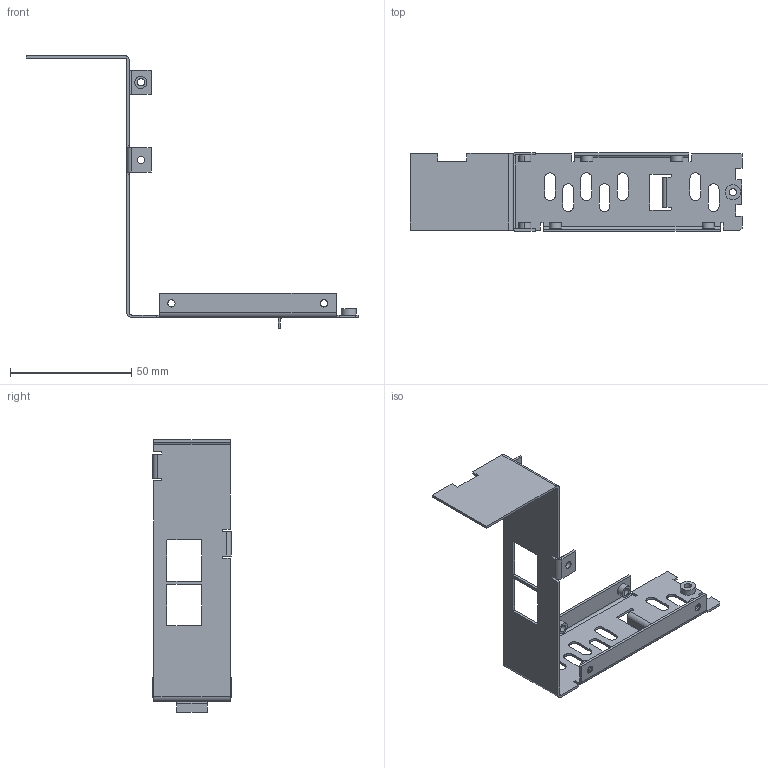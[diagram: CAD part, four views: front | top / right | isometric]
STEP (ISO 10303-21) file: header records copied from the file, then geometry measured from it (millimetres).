
FILE_DESCRIPTION(('TFLEX Exchange Step'),'2;1');
FILE_NAME('X2\0422042804120413\X0\.745312.014-04_Нижняя часть корпуса.stp', '2025-07-31T16:08:09+04:00',('golovaa'),('Unknown organisation'),'TFLEX Exchange 2019.2','T-FLEX CAD','Unknown authorisation');
FILE_SCHEMA( ('AUTOMOTIVE_DESIGN { 1 0 10303 214 1 1 1 1 }') );
Length unit declared in the file: millimetre
Products named in the file (2): 0; ТШВГ.745312.014-04_Нижняя часть корпуса
Assembly tree (1 placements, depth 2):
  ТШВГ.745312.014-04_Нижняя часть корпуса
    0
Bounding box: 136.98 x 32.4 x 112.5 mm (x, y, z)
Volume: 8154.1 mm3; surface area: 17420.3 mm2
Topology: 1 solids, 1 shells, 166 faces, 485 edges, 326 vertices
Faces by surface type: plane 102, cylinder 58, bspline 6
Full cylindrical faces by diameter (mm): 3 x5, 5 x4, 6.3 x1
Entity records: 7336 total; most frequent: CARTESIAN_POINT 2734, ORIENTED_EDGE 970, DIRECTION 913, EDGE_CURVE 485, VECTOR 339, LINE 339, VERTEX_POINT 326, AXIS2_PLACEMENT_3D 287
